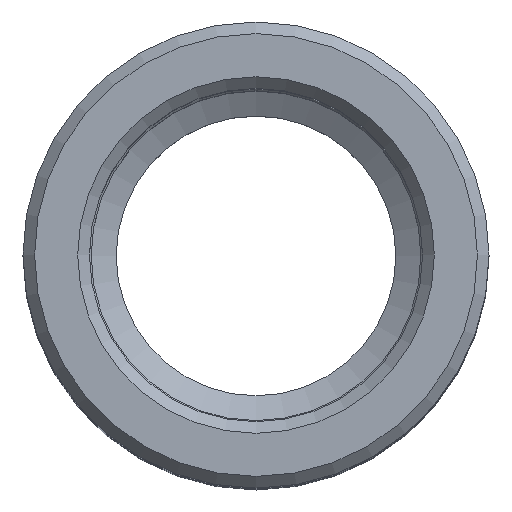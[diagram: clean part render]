
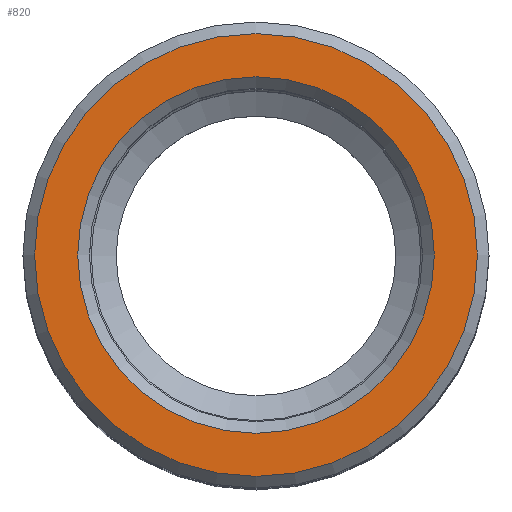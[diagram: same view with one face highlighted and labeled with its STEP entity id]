
A CAD part, top view. The second image highlights one B-rep face of the part: STEP entity #820.
In plain terms, the highlighted planar face has unit normal (0, 0, 1).
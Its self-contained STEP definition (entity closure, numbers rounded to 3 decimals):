
#820=ADVANCED_FACE('', (#830,#840), #850, .T.);
#4220=AXIS2_PLACEMENT_3D('Ax2Pl3d', #4230, #4240, #4250);
#4260=AXIS2_PLACEMENT_3D('Ax2Pl3d', #4270, #4280, #4290);
#4300=AXIS2_PLACEMENT_3D('Ax2Pl3d', #4310, #4320, #4330);
#4230=CARTESIAN_POINT('HicPkt', (17.007,20.611,
49.805));
#8520=CARTESIAN_POINT('', (26.507,20.611,49.805));
#4270=CARTESIAN_POINT('HicPkt', (26.507,20.611,
49.805));
#4310=CARTESIAN_POINT('HicPkt', (17.007,20.611,
49.805));
#8530=CARTESIAN_POINT('', (24.657,20.611,49.805));
#9180=CIRCLE('Circle', #4220, 9.5);
#9190=CIRCLE('Circle', #4300, 7.65);
#4240=DIRECTION('Axis', (0.,0.,1.));
#4250=DIRECTION('RefDirection', (1.,0.,-0.));
#4280=DIRECTION('Axis', (0.,0.,1.));
#4290=DIRECTION('RefDirection', (1.,0.,-0.));
#4320=DIRECTION('Axis', (0.,0.,1.));
#4330=DIRECTION('RefDirection', (1.,0.,-0.));
#12140=EDGE_CURVE('', #12150, #12150, #9180, .T.);
#12160=EDGE_CURVE('', #12170, #12170, #9190, .T.);
#13800=EDGE_LOOP('Edge_loop', (#13810));
#13820=EDGE_LOOP('Edge_loop', (#13830));
#840=FACE_BOUND('', #13820, .T.);
#830=FACE_OUTER_BOUND('Face_outer_bound', #13800, .T.);
#13810=ORIENTED_EDGE('', *, *, #12140, .T.);
#13830=ORIENTED_EDGE('', *, *, #12160, .F.);
#850=PLANE('Plane', #4260);
#12150=VERTEX_POINT('', #8520);
#12170=VERTEX_POINT('', #8530);
